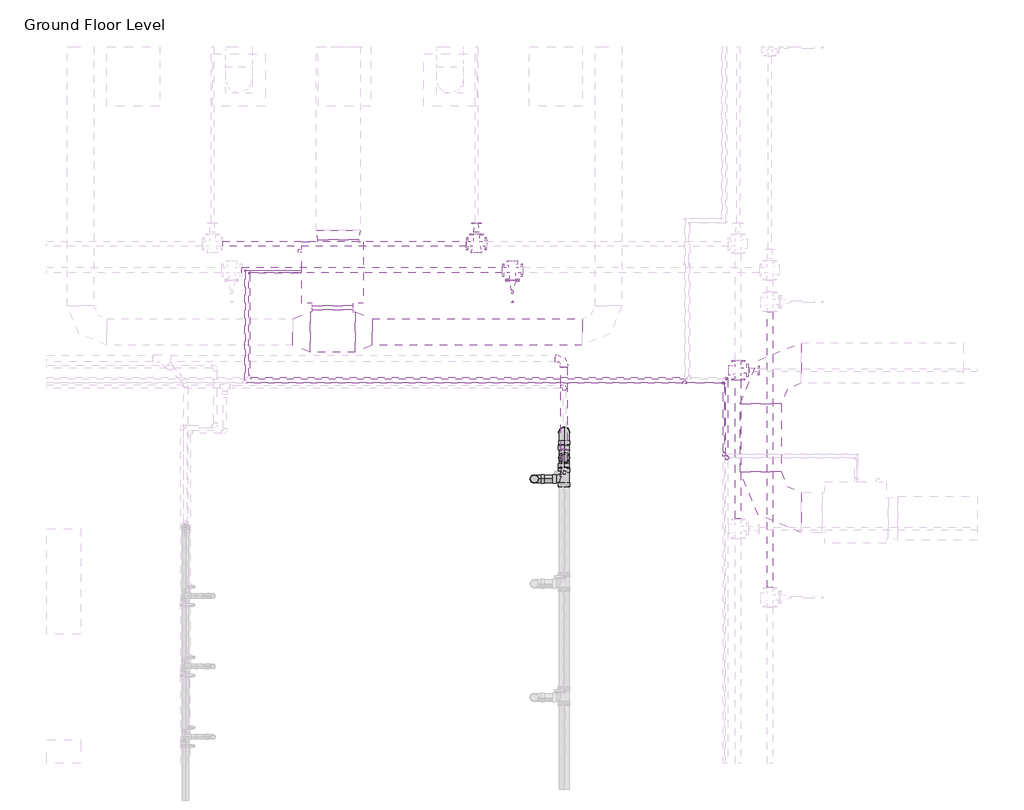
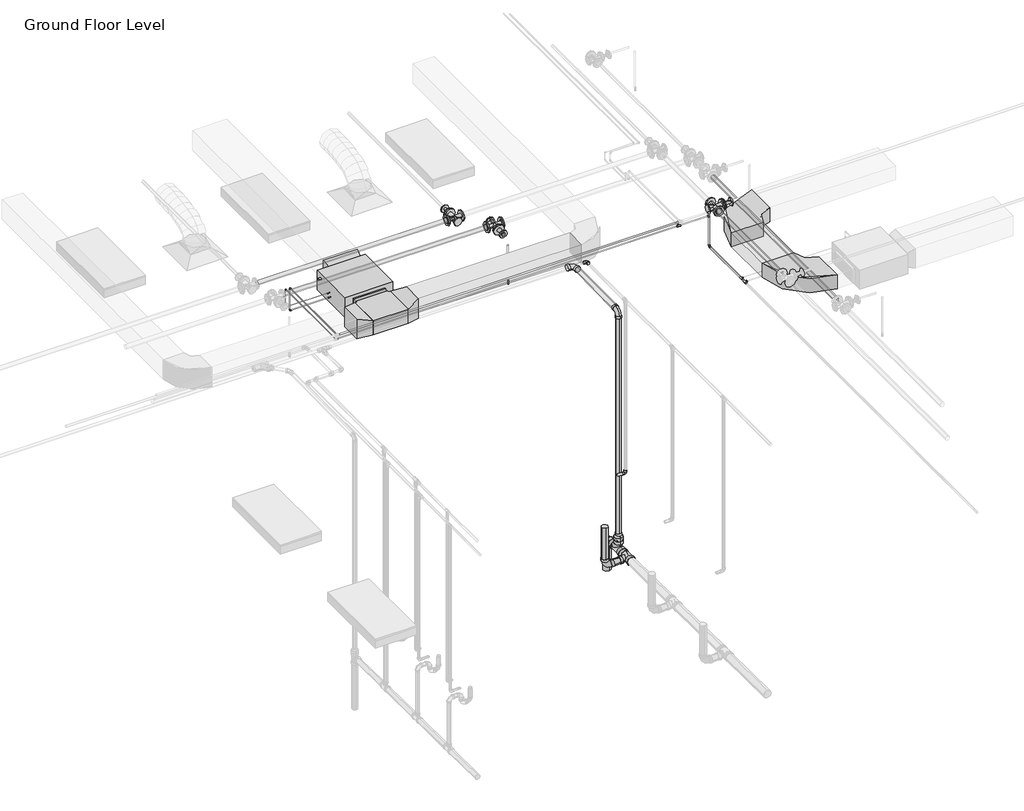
# One storey, part 66 of 74: 29 pipe fittings, 27 pipe segments, 8 duct fittings, 3 duct segments, 1 fire suppression terminal, 1 proxy.
"""IFC4 building model written with IfcOpenShell, lengths in millimetres."""

from ifc_helpers import new_model, si_unit, point, frame, frame_2d, origin, place, context, project, spatial, polyline, circle_curve, trimmed, segment, composite_curve, outline, extrude, transform, mapped, element, save
from components import fcu_daikin_iu_bad131e0, m_rectangular_elbow_radius_1_w_54c96895, m_rectangular_tee_standard_fa4de0e8, m_rectangular_transition_angle_45_degree_5a11b24e, m_rectangular_transition_angle_45_degree_27e6000f, m_rectangular_transition_angle_45_degree_1c32c0a1, m_rectangular_transition_angle_45_degree_6e5ad010, m_sprinkler_pendent_15_mm_pendent_06fcbd8e, m_bend_pvc_sch_40_dwv_standard_a4b99d37, m_bend_pvc_sch_40_dwv_standard_b7b4a97e, m_bend_pvc_sch_40_dwv_standard_c8221c0d, m_bend_pvc_sch_40_dwv_standard_69456cca, m_elbow_generic_standard_a088f956, m_elbow_generic_standard_2a704253, m_elbow_generic_standard_6b1a80c6, m_elbow_generic_standard_5542be81, m_elbow_generic_standard_73005802, m_elbow_generic_standard_bb5ffebe, m_reducer_flanged_cs_class_150_standard_a7631c35, m_reducer_flanged_cs_class_150_standard_55262df0, m_reducer_pvc_sch_40_dwv_standard_9996614f, m_tee_generic_standard_cdc1cff5, m_tee_generic_standard_bbfc025c, m_tee_reducing_sanitary_pvc_sch_40_dwv_standard_b49161a9, m_tee_reducing_sanitary_pvc_sch_40_dwv_standard_c42f3c59, m_tee_round_base_flanged_cs_class_150_standard_dd767e04, m_transition_generic_standard_e9aec4dd, m_transition_generic_standard_c2658a33, standard_517a5a8d

model = new_model("IFC4")

# Units and contexts
model_context = context("Model", 3, world=origin())
ifc_project = project(units=[si_unit("LENGTHUNIT", "METRE", prefix="MILLI")], contexts=[model_context])

# Site, building, storey
site = spatial("IfcSite", under=ifc_project)
building = spatial("IfcBuilding", under=site)
storey = spatial("IfcBuildingStorey", under=building, Name="Ground Floor Level", Elevation=900.0)

# Proxy
placement = place(None, origin())
fcu_daikin_iu_shape = fcu_daikin_iu_bad131e0(model_context)
element("IfcBuildingElementProxy", 1, Name="FCU-DAIKIN IU : 4.5kW, 230V/50Hz/1Ph", ObjectType="FCU-DAIKIN IU : 4.5kW, 230V/50Hz/1Ph", at=placement, inside=storey, context=model_context, shape_type="MappedRepresentation", body=[
    mapped(fcu_daikin_iu_shape, transform((1027.7672395, 14745.2153534, 3934.0872564), x_axis=(-1.0, 0.0, 0.0), y_axis=(0.0, -1.0, 0.0), z_axis=(0.0, 0.0, 1.0))),
])

# Duct fittings
m_rectangular_elbow_radius_1_w_shape = m_rectangular_elbow_radius_1_w_54c96895(model_context)
element("IfcDuctFitting", 2, ObjectType="M_Rectangular Elbow - Radius : 1 W", at=placement, inside=storey, context=model_context, shape_type="MappedRepresentation", body=[
    mapped(m_rectangular_elbow_radius_1_w_shape, transform((5893.4139492, 12019.6779527, 4075.2932729), x_axis=(0.0, -1.0, 0.0), y_axis=(1.0, 0.0, 0.0), z_axis=(0.0, 0.0, 1.0))),
])
element("IfcDuctFitting", 3, ObjectType="M_Rectangular Elbow - Radius : 1 W", at=placement, inside=storey, context=model_context, shape_type="MappedRepresentation", body=[
    mapped(m_rectangular_elbow_radius_1_w_shape, transform((5893.4139492, 13719.6783949, 4075.2932729), x_axis=(-1.0, 0.0, 0.0), y_axis=(0.0, -1.0, 0.0), z_axis=(0.0, 0.0, 1.0))),
])
m_rectangular_tee_standard_shape = m_rectangular_tee_standard_fa4de0e8(model_context)
element("IfcDuctFitting", 4, ObjectType="M_Rectangular Tee : Standard", at=placement, inside=storey, context=model_context, shape_type="MappedRepresentation", body=[
    mapped(m_rectangular_tee_standard_shape, transform((1027.7672395, 14069.8153534, 4075.2872564), x_axis=(-1.0, 0.0, 0.0), y_axis=(0.0, -1.0, 0.0), z_axis=(0.0, 0.0, 1.0))),
])
m_rectangular_transition_angle_45_degree_shape = m_rectangular_transition_angle_45_degree_5a11b24e(model_context)
element("IfcDuctFitting", 5, ObjectType="M_Rectangular Transition - Angle : 45 Degree", at=placement, inside=storey, context=model_context, shape_type="MappedRepresentation", body=[
    mapped(m_rectangular_transition_angle_45_degree_shape, transform((1091.2672395, 15120.6153534, 4099.9997564), x_axis=(0.0, 1.0, 0.0), y_axis=(-1.0, 0.0, 0.0), z_axis=(0.0, 0.0, 1.0))),
])
m_rectangular_transition_angle_45_degree_2_shape = m_rectangular_transition_angle_45_degree_27e6000f(model_context)
element("IfcDuctFitting", 6, ObjectType="M_Rectangular Transition - Angle : 45 Degree", at=placement, inside=storey, context=model_context, shape_type="MappedRepresentation", body=[
    mapped(m_rectangular_transition_angle_45_degree_2_shape, transform((1027.7672395, 14369.8153534, 4075.2872564), x_axis=(0.0, -1.0, 0.0), y_axis=(1.0, 0.0, 0.0), z_axis=(0.0, 0.0, 1.0))),
])
m_rectangular_transition_angle_45_degree_3_shape = m_rectangular_transition_angle_45_degree_1c32c0a1(model_context)
element("IfcDuctFitting", 7, ObjectType="M_Rectangular Transition - Angle : 45 Degree", at=placement, inside=storey, context=model_context, shape_type="MappedRepresentation", body=[
    mapped(m_rectangular_transition_angle_45_degree_3_shape, transform((1027.7672395, 14326.1149854, 4075.2872564), x_axis=(0.0, -1.0, 0.0), y_axis=(1.0, 0.0, 0.0), z_axis=(0.0, 0.0, 1.0))),
])
m_rectangular_transition_angle_45_degree_4_shape = m_rectangular_transition_angle_45_degree_6e5ad010(model_context)
element("IfcDuctFitting", 8, ObjectType="M_Rectangular Transition - Angle : 45 Degree", at=placement, inside=storey, context=model_context, shape_type="MappedRepresentation", body=[
    mapped(m_rectangular_transition_angle_45_degree_4_shape, transform((771.8297395, 14069.8153534, 4075.2872564), x_axis=(-1.0, 0.0, 0.0), y_axis=(0.0, -1.0, 0.0), z_axis=(0.0, 0.0, 1.0))),
])
element("IfcDuctFitting", 9, ObjectType="M_Rectangular Transition - Angle : 45 Degree", at=placement, inside=storey, context=model_context, shape_type="MappedRepresentation", body=[
    mapped(m_rectangular_transition_angle_45_degree_4_shape, transform((1283.7047395, 14069.8153534, 4075.2872564), x_axis=(1.0, 0.0, 0.0), y_axis=(0.0, 1.0, 0.0), z_axis=(0.0, 0.0, 1.0))),
])

# Duct segments
element("IfcDuctSegment", 10, ObjectType="Radius Elbows / Taps", at=placement, inside=storey, context=model_context, shape_type="SweptSolid", body=[
    extrude(outline(polyline([(1479.1051497, 13919.8153534), (1479.1051497, 14219.8153534), (3862.7672395, 14219.8153534), (3862.7672395, 13919.8153534), (1479.1051497, 13919.8153534)])), frame((0.0, 0.0, 3925.2872564), z_axis=(0.0, 0.0, 1.0), x_axis=(1.0, 0.0, 0.0)), (0.0, 0.0, 1.0), 300.0),
])
element("IfcDuctSegment", 11, ObjectType="Radius Elbows / Taps", at=placement, inside=storey, context=model_context, shape_type="SweptSolid", body=[
    extrude(outline(polyline([(796.7672395, 14369.4532214), (1258.7672395, 14369.4532214), (1258.7672395, 14326.1149854), (796.7672395, 14326.1149854), (796.7672395, 14369.4532214)])), frame((0.0, 0.0, 3968.2872564), z_axis=(0.0, 0.0, 1.0), x_axis=(1.0, 0.0, 0.0)), (0.0, 0.0, 1.0), 214.0),
])
element("IfcDuctSegment", 12, ObjectType="Radius Elbows / Taps", at=placement, inside=storey, context=model_context, shape_type="SweptSolid", body=[
    extrude(outline(polyline([(6124.3514492, 12481.5529527), (5662.4764492, 12481.5529527), (5662.4764492, 13257.8033949), (6124.3514492, 13257.8033949), (6124.3514492, 12481.5529527)])), frame((0.0, 0.0, 3968.1432729), z_axis=(0.0, 0.0, 1.0), x_axis=(1.0, 0.0, 0.0)), (0.0, 0.0, 1.0), 214.3),
])

# Fire suppression terminal
m_sprinkler_pendent_15_mm_pendent_shape = m_sprinkler_pendent_15_mm_pendent_06fcbd8e(model_context)
element("IfcFireSuppressionTerminal", 13, ObjectType="M_Sprinkler - Pendent : 15 mm Pendent", at=placement, inside=storey, context=model_context, shape_type="MappedRepresentation", body=[
    mapped(m_sprinkler_pendent_15_mm_pendent_shape, transform((3071.8868905, 14412.7243649, 3650.0), x_axis=(1.0, 0.0, 0.0), y_axis=(0.0, 1.0, 0.0), z_axis=(0.0, 0.0, 1.0))),
])

# Pipe fittings
m_bend_pvc_sch_40_dwv_standard_shape = m_bend_pvc_sch_40_dwv_standard_a4b99d37(model_context)
element("IfcPipeFitting", 14, ObjectType="M_Bend - PVC - Sch 40 - DWV : Standard", at=placement, inside=storey, context=model_context, shape_type="MappedRepresentation", body=[
    mapped(m_bend_pvc_sch_40_dwv_standard_shape, transform((3319.2245422, 12401.0385609, 390.1593073), x_axis=(0.0, 0.0, -1.0), y_axis=(1.0, 0.0, 0.0), z_axis=(0.0, -1.0, 0.0))),
])
m_bend_pvc_sch_40_dwv_standard_2_shape = m_bend_pvc_sch_40_dwv_standard_b7b4a97e(model_context)
element("IfcPipeFitting", 15, ObjectType="M_Bend - PVC - Sch 40 - DWV : Standard", at=placement, inside=storey, context=model_context, shape_type="MappedRepresentation", body=[
    mapped(m_bend_pvc_sch_40_dwv_standard_2_shape, transform((3657.4922763, 12931.9692954, 384.8), x_axis=(0.0, 0.9999500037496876, -0.00999950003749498), y_axis=(0.0, -0.00999950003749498, -0.9999500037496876), z_axis=(-1.0, 0.0, 0.0))),
])
m_bend_pvc_sch_40_dwv_standard_3_shape = m_bend_pvc_sch_40_dwv_standard_c8221c0d(model_context)
element("IfcPipeFitting", 16, ObjectType="M_Bend - PVC - Sch 40 - DWV : Standard", at=placement, inside=storey, context=model_context, shape_type="MappedRepresentation", body=[
    mapped(m_bend_pvc_sch_40_dwv_standard_3_shape, transform((3657.4860907, 12640.4076203, 4054.1870995), x_axis=(0.0, 0.0, 1.0), y_axis=(0.0, 1.0, 0.0), z_axis=(-1.0, 0.0, 0.0))),
])
m_bend_pvc_sch_40_dwv_standard_4_shape = m_bend_pvc_sch_40_dwv_standard_69456cca(model_context)
element("IfcPipeFitting", 17, ObjectType="M_Bend - PVC - Sch 40 - DWV : Standard", at=placement, inside=storey, context=model_context, shape_type="MappedRepresentation", body=[
    mapped(m_bend_pvc_sch_40_dwv_standard_4_shape, transform((3657.4860907, 13768.7316659, 4065.526469), x_axis=(0.0, 0.9999495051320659, 0.010049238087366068), y_axis=(-0.9999499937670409, -0.00010049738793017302, 0.009999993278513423), z_axis=(0.01000049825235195, -0.010048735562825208, 0.9998995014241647))),
])
m_elbow_generic_standard_shape = m_elbow_generic_standard_a088f956(model_context)
element("IfcPipeFitting", 18, ObjectType="M_Elbow - Generic : Standard", at=placement, inside=storey, context=model_context, shape_type="MappedRepresentation", body=[
    mapped(m_elbow_generic_standard_shape, transform((79.6672395, 14745.2153534, 4380.0), x_axis=(0.0, 0.0, 1.0), y_axis=(0.0, -1.0, 0.0), z_axis=(1.0, 0.0, 0.0))),
])
m_elbow_generic_standard_2_shape = m_elbow_generic_standard_2a704253(model_context)
element("IfcPipeFitting", 19, ObjectType="M_Elbow - Generic : Standard", at=placement, inside=storey, context=model_context, shape_type="MappedRepresentation", body=[
    mapped(m_elbow_generic_standard_2_shape, transform((29.9807053, 14770.2153534, 4365.0), x_axis=(0.0, 0.0, 1.0), y_axis=(0.0, -1.0, 0.0), z_axis=(1.0, 0.0, 0.0))),
])
m_elbow_generic_standard_3_shape = m_elbow_generic_standard_6b1a80c6(model_context)
element("IfcPipeFitting", 20, ObjectType="M_Elbow - Generic : Standard", at=placement, inside=storey, context=model_context, shape_type="MappedRepresentation", body=[
    mapped(m_elbow_generic_standard_3_shape, transform((79.6640192, 14745.2153534, 4034.0996164), x_axis=(0.0, 0.0, -1.0), y_axis=(1.0, 0.0, 0.0), z_axis=(0.0, -1.0, 0.0))),
])
m_elbow_generic_standard_4_shape = m_elbow_generic_standard_5542be81(model_context)
element("IfcPipeFitting", 21, ObjectType="M_Elbow - Generic : Standard", at=placement, inside=storey, context=model_context, shape_type="MappedRepresentation", body=[
    mapped(m_elbow_generic_standard_4_shape, transform((29.9777475, 14770.2153534, 4084.8996164), x_axis=(0.0, 0.0, -1.0), y_axis=(1.0, 0.0, 0.0), z_axis=(0.0, -1.0, 0.0))),
])
m_elbow_generic_standard_5_shape = m_elbow_generic_standard_73005802(model_context)
element("IfcPipeFitting", 22, ObjectType="M_Elbow - Generic : Standard", at=placement, inside=storey, context=model_context, shape_type="MappedRepresentation", body=[
    mapped(m_elbow_generic_standard_5_shape, transform((5505.0672395, 13545.2153534, 3851.8370709), x_axis=(0.0, 1.0, 0.0), y_axis=(0.0, 0.0, 1.0), z_axis=(1.0, 0.0, 0.0))),
])
element("IfcPipeFitting", 23, ObjectType="M_Elbow - Generic : Standard", at=placement, inside=storey, context=model_context, shape_type="MappedRepresentation", body=[
    mapped(m_elbow_generic_standard_5_shape, transform((5505.0672395, 13545.2153534, 4380.0), x_axis=(0.0, 0.0, 1.0), y_axis=(-1.0, 0.0, 0.0), z_axis=(0.0, -1.0, 0.0))),
])
m_elbow_generic_standard_6_shape = m_elbow_generic_standard_bb5ffebe(model_context)
element("IfcPipeFitting", 24, ObjectType="M_Elbow - Generic : Standard", at=placement, inside=storey, context=model_context, shape_type="MappedRepresentation", body=[
    mapped(m_elbow_generic_standard_6_shape, transform((5472.2057053, 13494.0185138, 3894.9), x_axis=(0.0, 1.0, 0.0), y_axis=(0.0, 0.0, 1.0), z_axis=(1.0, 0.0, 0.0))),
])
element("IfcPipeFitting", 25, ObjectType="M_Elbow - Generic : Standard", at=placement, inside=storey, context=model_context, shape_type="MappedRepresentation", body=[
    mapped(m_elbow_generic_standard_6_shape, transform((5472.2057053, 13494.0185138, 4365.0), x_axis=(0.0, 0.0, 1.0), y_axis=(-1.0, 0.0, 0.0), z_axis=(0.0, -1.0, 0.0))),
])
m_reducer_flanged_cs_class_150_standard_shape = m_reducer_flanged_cs_class_150_standard_a7631c35(model_context)
element("IfcPipeFitting", 26, ObjectType="M_Reducer - Flanged - CS - Class 150 : Standard", at=placement, inside=storey, context=model_context, shape_type="MappedRepresentation", body=[
    mapped(m_reducer_flanged_cs_class_150_standard_shape, transform((2662.7672395, 15187.2009828, 4360.0), x_axis=(0.0, 1.0, 0.0), y_axis=(-1.0, 0.0, 0.0), z_axis=(0.0, 0.0, 1.0))),
])
element("IfcPipeFitting", 27, ObjectType="M_Reducer - Flanged - CS - Class 150 : Standard", at=placement, inside=storey, context=model_context, shape_type="MappedRepresentation", body=[
    mapped(m_reducer_flanged_cs_class_150_standard_shape, transform((5749.869498, 13635.2153534, 4360.0), x_axis=(1.0, 0.0, 0.0), y_axis=(0.0, 0.0, 1.0), z_axis=(0.0, -1.0, 0.0))),
])
m_reducer_flanged_cs_class_150_standard_2_shape = m_reducer_flanged_cs_class_150_standard_55262df0(model_context)
element("IfcPipeFitting", 28, ObjectType="M_Reducer - Flanged - CS - Class 150 : Standard", at=placement, inside=storey, context=model_context, shape_type="MappedRepresentation", body=[
    mapped(m_reducer_flanged_cs_class_150_standard_2_shape, transform((3071.8868905, 14659.4681847, 4290.0), x_axis=(0.0, -1.0, 0.0), y_axis=(1.0, 0.0, 0.0), z_axis=(0.0, 0.0, 1.0))),
])
m_reducer_pvc_sch_40_dwv_standard_shape = m_reducer_pvc_sch_40_dwv_standard_9996614f(model_context)
element("IfcPipeFitting", 29, ObjectType="M_Reducer - PVC - Sch 40 - DWV : Standard", at=placement, inside=storey, context=model_context, shape_type="MappedRepresentation", body=[
    mapped(m_reducer_pvc_sch_40_dwv_standard_shape, transform((3657.4891752, 12640.1615283, 533.8243961), x_axis=(0.0, 7.101608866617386e-05, 0.9999999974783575), y_axis=(0.0, 0.9999999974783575, -7.101608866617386e-05), z_axis=(-1.0, 0.0, 0.0))),
])
m_tee_generic_standard_shape = m_tee_generic_standard_cdc1cff5(model_context)
element("IfcPipeFitting", 30, ObjectType="M_Tee - Generic : Standard", at=placement, inside=storey, context=model_context, shape_type="MappedRepresentation", body=[
    mapped(m_tee_generic_standard_shape, transform((5472.2057053, 12681.5253374, 3894.9), x_axis=(0.0, 1.0, 0.0), y_axis=(-1.0, 0.0, 0.0), z_axis=(0.0, 0.0, 1.0))),
])
element("IfcPipeFitting", 31, ObjectType="M_Tee - Generic : Standard", at=placement, inside=storey, context=model_context, shape_type="MappedRepresentation", body=[
    mapped(m_tee_generic_standard_shape, transform((5029.9807053, 13494.0185138, 4365.0), x_axis=(-1.0, 0.0, 0.0), y_axis=(0.0, -1.0, 0.0), z_axis=(0.0, 0.0, 1.0))),
])
m_tee_generic_standard_2_shape = m_tee_generic_standard_bbfc025c(model_context)
element("IfcPipeFitting", 32, ObjectType="M_Tee - Generic : Standard", at=placement, inside=storey, context=model_context, shape_type="MappedRepresentation", body=[
    mapped(m_tee_generic_standard_2_shape, transform((5505.0672395, 12641.4098545, 3851.8370709), x_axis=(0.0, 1.0, 0.0), y_axis=(-1.0, 0.0, 0.0), z_axis=(0.0, 0.0, 1.0))),
])
m_tee_reducing_sanitary_pvc_sch_40_dwv_standard_shape = m_tee_reducing_sanitary_pvc_sch_40_dwv_standard_b49161a9(model_context)
element("IfcPipeFitting", 33, ObjectType="M_Tee Reducing Sanitary - PVC - Sch 40 - DWV : Standard", at=placement, inside=storey, context=model_context, shape_type="MappedRepresentation", body=[
    mapped(m_tee_reducing_sanitary_pvc_sch_40_dwv_standard_shape, transform((3657.4922763, 12401.038061, 390.1093123), x_axis=(0.0, -0.9999500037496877, 0.009999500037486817), y_axis=(1.0000000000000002, 0.0, 0.0), z_axis=(0.0, 0.009999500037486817, 0.9999500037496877))),
])
m_tee_reducing_sanitary_pvc_sch_40_dwv_standard_2_shape = m_tee_reducing_sanitary_pvc_sch_40_dwv_standard_c42f3c59(model_context)
element("IfcPipeFitting", 34, ObjectType="M_Tee Reducing Sanitary - PVC - Sch 40 - DWV : Standard", at=placement, inside=storey, context=model_context, shape_type="MappedRepresentation", body=[
    mapped(m_tee_reducing_sanitary_pvc_sch_40_dwv_standard_2_shape, transform((3657.4922763, 12640.3832411, 387.7158605), x_axis=(0.0, -0.9999500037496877, 0.009999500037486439), y_axis=(0.0, -0.009999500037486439, -0.9999500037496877), z_axis=(1.0, 0.0, 0.0))),
])
m_tee_round_base_flanged_cs_class_150_standard_shape = m_tee_round_base_flanged_cs_class_150_standard_dd767e04(model_context)
element("IfcPipeFitting", 35, ObjectType="M_Tee Round Base - Flanged - CS - Class 150 : Standard", at=placement, inside=storey, context=model_context, shape_type="MappedRepresentation", body=[
    mapped(m_tee_round_base_flanged_cs_class_150_standard_shape, transform((3071.8868905, 14773.4681847, 4290.0), x_axis=(-1.0, 0.0, 0.0), y_axis=(0.0, 1.0, 0.0), z_axis=(0.0, 0.0, -1.0))),
])
element("IfcPipeFitting", 36, ObjectType="M_Tee Round Base - Flanged - CS - Class 150 : Standard", at=placement, inside=storey, context=model_context, shape_type="MappedRepresentation", body=[
    mapped(m_tee_round_base_flanged_cs_class_150_standard_shape, transform((2662.7672395, 15073.2009828, 4360.0), x_axis=(-1.0, 0.0, 0.0), y_axis=(0.0, -1.0, 0.0), z_axis=(0.0, 0.0, 1.0))),
])
element("IfcPipeFitting", 37, ObjectType="M_Tee Round Base - Flanged - CS - Class 150 : Standard", at=placement, inside=storey, context=model_context, shape_type="MappedRepresentation", body=[
    mapped(m_tee_round_base_flanged_cs_class_150_standard_shape, transform((5635.869498, 13635.2153534, 4360.0), x_axis=(0.0, 1.0, 0.0), y_axis=(-1.0, 0.0, 0.0), z_axis=(0.0, 0.0, 1.0))),
])
m_transition_generic_standard_shape = m_transition_generic_standard_e9aec4dd(model_context)
element("IfcPipeFitting", 38, ObjectType="M_Transition - Generic : Standard", at=placement, inside=storey, context=model_context, shape_type="MappedRepresentation", body=[
    mapped(m_transition_generic_standard_shape, transform((5530.4672395, 12641.4098545, 3851.8370709), x_axis=(1.0, 0.0, 0.0), y_axis=(0.0, 1.0, 0.0), z_axis=(0.0, 0.0, 1.0))),
])
m_transition_generic_standard_2_shape = m_transition_generic_standard_c2658a33(model_context)
element("IfcPipeFitting", 39, ObjectType="M_Transition - Generic : Standard", at=placement, inside=storey, context=model_context, shape_type="MappedRepresentation", body=[
    mapped(m_transition_generic_standard_2_shape, transform((5494.4307053, 12681.5253374, 3894.9), x_axis=(1.0, 0.0, 0.0), y_axis=(0.0, 1.0, 0.0), z_axis=(0.0, 0.0, 1.0))),
])
element("IfcPipeFitting", 40, ObjectType="M_Transition - Generic : Standard", at=placement, inside=storey, context=model_context, shape_type="MappedRepresentation", body=[
    mapped(m_transition_generic_standard_2_shape, transform((5029.9807053, 13516.2435138, 4365.0), x_axis=(0.0, 1.0, 0.0), y_axis=(-1.0, 0.0, 0.0), z_axis=(0.0, 0.0, 1.0))),
])
standard_shape = standard_517a5a8d(model_context)
element("IfcPipeFitting", 41, ObjectType="M_Elbow - CPVC - Sch 40 : Standard", at=placement, inside=storey, context=model_context, shape_type="MappedRepresentation", body=[
    mapped(standard_shape, transform((3662.4674395, 13449.9865561, 4315.0), x_axis=(0.0, 1.0, 0.0), y_axis=(-1.0, 0.0, 0.0), z_axis=(0.0, 0.0, 1.0))),
])
element("IfcPipeFitting", 42, ObjectType="M_Elbow - CPVC - Sch 40 : Standard", at=placement, inside=storey, context=model_context, shape_type="MappedRepresentation", body=[
    mapped(standard_shape, transform((3662.4674395, 12474.4768272, 1655.0), x_axis=(0.0, 0.0, -1.0), y_axis=(-1.0, 0.0, 0.0), z_axis=(0.0, 1.0, 0.0))),
])

# Pipe segments
element("IfcPipeSegment", 43, ObjectType="Copper", at=placement, inside=storey, context=model_context, shape_type="SweptSolid", body=[
    extrude(outline(composite_curve([segment(trimmed(circle_curve(frame_2d((0.0, -6.5)), 6.5), [point((-6.5, -6.5))], [point((0.0, 0.0))], False, "CARTESIAN"), True, "CONTINUOUS"), segment(trimmed(circle_curve(frame_2d((0.0, -6.5)), 6.5), [point((0.0, 0.0))], [point((6.5, -6.5))], False, "CARTESIAN"), True, "CONTINUOUS"), segment(trimmed(circle_curve(frame_2d((0.0, -6.5)), 6.5), [point((6.5, -6.5))], [point((0.0, -13.0))], False, "CARTESIAN"), True, "CONTINUOUS"), segment(trimmed(circle_curve(frame_2d((0.0, -6.5)), 6.5), [point((0.0, -13.0))], [point((-6.5, -6.5))], False, "CARTESIAN"), True, "CONTINUOUS")], self_intersect=False)), frame((639.667096, 14745.2153534, 4027.5872564), z_axis=(-0.9999999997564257, 0.0, 2.207144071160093e-05), x_axis=(0.0, 1.0, 0.0)), (0.0, 0.0, 1.0), 545.7160357),
])
element("IfcPipeSegment", 44, ObjectType="Copper", at=placement, inside=storey, context=model_context, shape_type="SweptSolid", body=[
    extrude(outline(composite_curve([segment(trimmed(circle_curve(frame_2d((0.0, -3.35)), 3.35), [point((-3.35, -3.35))], [point((0.0, 0.0))], False, "CARTESIAN"), True, "CONTINUOUS"), segment(trimmed(circle_curve(frame_2d((0.0, -3.35)), 3.35), [point((0.0, 0.0))], [point((3.35, -3.35))], False, "CARTESIAN"), True, "CONTINUOUS"), segment(trimmed(circle_curve(frame_2d((0.0, -3.35)), 3.35), [point((3.35, -3.35))], [point((0.0, -6.7))], False, "CARTESIAN"), True, "CONTINUOUS"), segment(trimmed(circle_curve(frame_2d((0.0, -3.35)), 3.35), [point((0.0, -6.7))], [point((-3.35, -3.35))], False, "CARTESIAN"), True, "CONTINUOUS")], self_intersect=False)), frame((639.6671716, 14770.2153534, 4081.5372564), z_axis=(-0.9999999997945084, 0.0, 2.027272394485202e-05), x_axis=(0.0, 1.0, 0.0)), (0.0, 0.0, 1.0), 598.5522179),
])
element("IfcPipeSegment", 45, ObjectType="Copper", at=placement, inside=storey, context=model_context, shape_type="SweptSolid", body=[
    extrude(outline(composite_curve([segment(trimmed(circle_curve(frame_2d((4380.0, 79.6672395)), 6.5), [point((4380.0, 73.1672395))], [point((4373.5, 79.6672395))], False, "CARTESIAN"), True, "CONTINUOUS"), segment(trimmed(circle_curve(frame_2d((4380.0, 79.6672395)), 6.5), [point((4373.5, 79.6672395))], [point((4380.0, 86.1672395))], False, "CARTESIAN"), True, "CONTINUOUS"), segment(trimmed(circle_curve(frame_2d((4380.0, 79.6672395)), 6.5), [point((4380.0, 86.1672395))], [point((4386.5, 79.6672395))], False, "CARTESIAN"), True, "CONTINUOUS"), segment(trimmed(circle_curve(frame_2d((4380.0, 79.6672395)), 6.5), [point((4386.5, 79.6672395))], [point((4380.0, 73.1672395))], False, "CARTESIAN"), True, "CONTINUOUS")], self_intersect=False)), frame((0.0, 13576.9653534, 0.0), z_axis=(0.0, 1.0, 0.0), x_axis=(0.0, 0.0, 1.0)), (0.0, 0.0, 1.0), 1153.9625),
])
element("IfcPipeSegment", 46, ObjectType="Copper", at=placement, inside=storey, context=model_context, shape_type="SweptSolid", body=[
    extrude(outline(composite_curve([segment(trimmed(circle_curve(frame_2d((0.0, -6.5)), 6.5), [point((-6.5, -6.5))], [point((0.0, 0.0))], False, "CARTESIAN"), True, "CONTINUOUS"), segment(trimmed(circle_curve(frame_2d((0.0, -6.5)), 6.5), [point((0.0, 0.0))], [point((6.5, -6.5))], False, "CARTESIAN"), True, "CONTINUOUS"), segment(trimmed(circle_curve(frame_2d((0.0, -6.5)), 6.5), [point((6.5, -6.5))], [point((0.0, -13.0))], False, "CARTESIAN"), True, "CONTINUOUS"), segment(trimmed(circle_curve(frame_2d((0.0, -6.5)), 6.5), [point((0.0, -13.0))], [point((-6.5, -6.5))], False, "CARTESIAN"), True, "CONTINUOUS")], self_intersect=False)), frame((79.6640192, 14738.7153534, 4048.3868011), z_axis=(1.014803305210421e-05, 0.0, 0.9999999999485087), x_axis=(-0.9999999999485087, 0.0, 1.014803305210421e-05)), (0.0, 0.0, 1.0), 317.3256989),
])
element("IfcPipeSegment", 47, ObjectType="Copper", at=placement, inside=storey, context=model_context, shape_type="SweptSolid", body=[
    extrude(outline(composite_curve([segment(trimmed(circle_curve(frame_2d((4365.0, 29.9807053)), 3.35), [point((4365.0, 26.6307053))], [point((4361.65, 29.9807053))], False, "CARTESIAN"), True, "CONTINUOUS"), segment(trimmed(circle_curve(frame_2d((4365.0, 29.9807053)), 3.35), [point((4361.65, 29.9807053))], [point((4365.0, 33.3307053))], False, "CARTESIAN"), True, "CONTINUOUS"), segment(trimmed(circle_curve(frame_2d((4365.0, 29.9807053)), 3.35), [point((4365.0, 33.3307053))], [point((4368.35, 29.9807053))], False, "CARTESIAN"), True, "CONTINUOUS"), segment(trimmed(circle_curve(frame_2d((4365.0, 29.9807053)), 3.35), [point((4368.35, 29.9807053))], [point((4365.0, 26.6307053))], False, "CARTESIAN"), True, "CONTINUOUS")], self_intersect=False)), frame((0.0, 13521.0060138, 0.0), z_axis=(0.0, 1.0, 0.0), x_axis=(0.0, 0.0, 1.0)), (0.0, 0.0, 1.0), 1238.0718396),
])
element("IfcPipeSegment", 48, ObjectType="Copper", at=placement, inside=storey, context=model_context, shape_type="SweptSolid", body=[
    extrude(outline(composite_curve([segment(trimmed(circle_curve(frame_2d((0.0, -3.35)), 3.35), [point((-3.35, -3.35))], [point((0.0, 0.0))], False, "CARTESIAN"), True, "CONTINUOUS"), segment(trimmed(circle_curve(frame_2d((0.0, -3.35)), 3.35), [point((0.0, 0.0))], [point((3.35, -3.35))], False, "CARTESIAN"), True, "CONTINUOUS"), segment(trimmed(circle_curve(frame_2d((0.0, -3.35)), 3.35), [point((3.35, -3.35))], [point((0.0, -6.7))], False, "CARTESIAN"), True, "CONTINUOUS"), segment(trimmed(circle_curve(frame_2d((0.0, -3.35)), 3.35), [point((0.0, -6.7))], [point((-3.35, -3.35))], False, "CARTESIAN"), True, "CONTINUOUS")], self_intersect=False)), frame((29.9777475, 14766.8653534, 4096.0368906), z_axis=(1.1472088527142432e-05, 0.0, 0.9999999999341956), x_axis=(-0.9999999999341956, 0.0, 1.1472088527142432e-05)), (0.0, 0.0, 1.0), 257.8256094),
])
element("IfcPipeSegment", 49, ObjectType="Copper", at=placement, inside=storey, context=model_context, shape_type="SweptSolid", body=[
    extrude(outline(composite_curve([segment(trimmed(circle_curve(frame_2d((13494.0185138, 4365.0)), 8.1), [point((13485.9185138, 4365.0))], [point((13494.0185138, 4373.1))], False, "CARTESIAN"), True, "CONTINUOUS"), segment(trimmed(circle_curve(frame_2d((13494.0185138, 4365.0)), 8.1), [point((13494.0185138, 4373.1))], [point((13502.1185138, 4365.0))], False, "CARTESIAN"), True, "CONTINUOUS"), segment(trimmed(circle_curve(frame_2d((13494.0185138, 4365.0)), 8.1), [point((13502.1185138, 4365.0))], [point((13494.0185138, 4356.9))], False, "CARTESIAN"), True, "CONTINUOUS"), segment(trimmed(circle_curve(frame_2d((13494.0185138, 4365.0)), 8.1), [point((13494.0185138, 4356.9))], [point((13485.9185138, 4365.0))], False, "CARTESIAN"), True, "CONTINUOUS")], self_intersect=False)), frame((5052.2057053, 0.0, 0.0), z_axis=(1.0, 0.0, 0.0), x_axis=(0.0, 1.0, 0.0)), (0.0, 0.0, 1.0), 404.125),
])
element("IfcPipeSegment", 50, ObjectType="Copper", at=placement, inside=storey, context=model_context, shape_type="SweptSolid", body=[
    extrude(outline(composite_curve([segment(trimmed(circle_curve(frame_2d((5505.0672395, 13545.2153534)), 11.5), [point((5493.5672395, 13545.2153534))], [point((5505.0672395, 13556.7153534))], False, "CARTESIAN"), True, "CONTINUOUS"), segment(trimmed(circle_curve(frame_2d((5505.0672395, 13545.2153534)), 11.5), [point((5505.0672395, 13556.7153534))], [point((5516.5672395, 13545.2153534))], False, "CARTESIAN"), True, "CONTINUOUS"), segment(trimmed(circle_curve(frame_2d((5505.0672395, 13545.2153534)), 11.5), [point((5516.5672395, 13545.2153534))], [point((5505.0672395, 13533.7153534))], False, "CARTESIAN"), True, "CONTINUOUS"), segment(trimmed(circle_curve(frame_2d((5505.0672395, 13545.2153534)), 11.5), [point((5505.0672395, 13533.7153534))], [point((5493.5672395, 13545.2153534))], False, "CARTESIAN"), True, "CONTINUOUS")], self_intersect=False)), frame((0.0, 0.0, 3870.8870709), z_axis=(0.0, 0.0, 1.0), x_axis=(1.0, 0.0, 0.0)), (0.0, 0.0, 1.0), 490.0629291),
])
element("IfcPipeSegment", 51, ObjectType="Copper", at=placement, inside=storey, context=model_context, shape_type="SweptSolid", body=[
    extrude(outline(composite_curve([segment(trimmed(circle_curve(frame_2d((5472.2057053, 13494.0185138)), 8.1), [point((5464.1057053, 13494.0185138))], [point((5472.2057053, 13502.1185138))], False, "CARTESIAN"), True, "CONTINUOUS"), segment(trimmed(circle_curve(frame_2d((5472.2057053, 13494.0185138)), 8.1), [point((5472.2057053, 13502.1185138))], [point((5480.3057053, 13494.0185138))], False, "CARTESIAN"), True, "CONTINUOUS"), segment(trimmed(circle_curve(frame_2d((5472.2057053, 13494.0185138)), 8.1), [point((5480.3057053, 13494.0185138))], [point((5472.2057053, 13485.9185138))], False, "CARTESIAN"), True, "CONTINUOUS"), segment(trimmed(circle_curve(frame_2d((5472.2057053, 13494.0185138)), 8.1), [point((5472.2057053, 13485.9185138))], [point((5464.1057053, 13494.0185138))], False, "CARTESIAN"), True, "CONTINUOUS")], self_intersect=False)), frame((0.0, 0.0, 3910.775), z_axis=(0.0, 0.0, 1.0), x_axis=(1.0, 0.0, 0.0)), (0.0, 0.0, 1.0), 438.35),
])
element("IfcPipeSegment", 52, ObjectType="Copper", at=placement, inside=storey, context=model_context, shape_type="SweptSolid", body=[
    extrude(outline(composite_curve([segment(trimmed(circle_curve(frame_2d((3851.8370709, 5505.0672395)), 11.5), [point((3851.8370709, 5493.5672395))], [point((3840.3370709, 5505.0672395))], False, "CARTESIAN"), True, "CONTINUOUS"), segment(trimmed(circle_curve(frame_2d((3851.8370709, 5505.0672395)), 11.5), [point((3840.3370709, 5505.0672395))], [point((3851.8370709, 5516.5672395))], False, "CARTESIAN"), True, "CONTINUOUS"), segment(trimmed(circle_curve(frame_2d((3851.8370709, 5505.0672395)), 11.5), [point((3851.8370709, 5516.5672395))], [point((3863.3370709, 5505.0672395))], False, "CARTESIAN"), True, "CONTINUOUS"), segment(trimmed(circle_curve(frame_2d((3851.8370709, 5505.0672395)), 11.5), [point((3863.3370709, 5505.0672395))], [point((3851.8370709, 5493.5672395))], False, "CARTESIAN"), True, "CONTINUOUS")], self_intersect=False)), frame((0.0, 12666.8098545, 0.0), z_axis=(0.0, 1.0, 0.0), x_axis=(0.0, 0.0, 1.0)), (0.0, 0.0, 1.0), 859.3554989),
])
element("IfcPipeSegment", 53, ObjectType="Copper", at=placement, inside=storey, context=model_context, shape_type="SweptSolid", body=[
    extrude(outline(composite_curve([segment(trimmed(circle_curve(frame_2d((3894.9, 5472.2057053)), 8.1), [point((3894.9, 5464.1057053))], [point((3886.8, 5472.2057053))], False, "CARTESIAN"), True, "CONTINUOUS"), segment(trimmed(circle_curve(frame_2d((3894.9, 5472.2057053)), 8.1), [point((3886.8, 5472.2057053))], [point((3894.9, 5480.3057053))], False, "CARTESIAN"), True, "CONTINUOUS"), segment(trimmed(circle_curve(frame_2d((3894.9, 5472.2057053)), 8.1), [point((3894.9, 5480.3057053))], [point((3903.0, 5472.2057053))], False, "CARTESIAN"), True, "CONTINUOUS"), segment(trimmed(circle_curve(frame_2d((3894.9, 5472.2057053)), 8.1), [point((3903.0, 5472.2057053))], [point((3894.9, 5464.1057053))], False, "CARTESIAN"), True, "CONTINUOUS")], self_intersect=False)), frame((0.0, 12703.7503374, 0.0), z_axis=(0.0, 1.0, 0.0), x_axis=(0.0, 0.0, 1.0)), (0.0, 0.0, 1.0), 774.3931764),
])
element("IfcPipeSegment", 54, ObjectType="Copper", at=placement, inside=storey, context=model_context, shape_type="SweptSolid", body=[
    extrude(outline(composite_curve([segment(trimmed(circle_curve(frame_2d((13494.0185138, 4365.0)), 8.1), [point((13485.9185138, 4365.0))], [point((13494.0185138, 4373.1))], False, "CARTESIAN"), True, "CONTINUOUS"), segment(trimmed(circle_curve(frame_2d((13494.0185138, 4365.0)), 8.1), [point((13494.0185138, 4373.1))], [point((13502.1185138, 4365.0))], False, "CARTESIAN"), True, "CONTINUOUS"), segment(trimmed(circle_curve(frame_2d((13494.0185138, 4365.0)), 8.1), [point((13502.1185138, 4365.0))], [point((13494.0185138, 4356.9))], False, "CARTESIAN"), True, "CONTINUOUS"), segment(trimmed(circle_curve(frame_2d((13494.0185138, 4365.0)), 8.1), [point((13494.0185138, 4356.9))], [point((13485.9185138, 4365.0))], False, "CARTESIAN"), True, "CONTINUOUS")], self_intersect=False)), frame((52.2057053, 0.0, 0.0), z_axis=(1.0, 0.0, 0.0), x_axis=(0.0, 1.0, 0.0)), (0.0, 0.0, 1.0), 4955.55),
])
element("IfcPipeSegment", 55, ObjectType="Copper", at=placement, inside=storey, context=model_context, shape_type="SweptSolid", body=[
    extrude(outline(composite_curve([segment(trimmed(circle_curve(frame_2d((13545.2153534, 4380.0)), 11.5), [point((13533.7153534, 4380.0))], [point((13545.2153534, 4391.5))], False, "CARTESIAN"), True, "CONTINUOUS"), segment(trimmed(circle_curve(frame_2d((13545.2153534, 4380.0)), 11.5), [point((13545.2153534, 4391.5))], [point((13556.7153534, 4380.0))], False, "CARTESIAN"), True, "CONTINUOUS"), segment(trimmed(circle_curve(frame_2d((13545.2153534, 4380.0)), 11.5), [point((13556.7153534, 4380.0))], [point((13545.2153534, 4368.5))], False, "CARTESIAN"), True, "CONTINUOUS"), segment(trimmed(circle_curve(frame_2d((13545.2153534, 4380.0)), 11.5), [point((13545.2153534, 4368.5))], [point((13533.7153534, 4380.0))], False, "CARTESIAN"), True, "CONTINUOUS")], self_intersect=False)), frame((105.0672395, 0.0, 0.0), z_axis=(1.0, 0.0, 0.0), x_axis=(0.0, 1.0, 0.0)), (0.0, 0.0, 1.0), 4949.2),
])
element("IfcPipeSegment", 56, ObjectType="PVC - DWV", at=placement, inside=storey, context=model_context, shape_type="SweptSolid", body=[
    extrude(outline(composite_curve([segment(trimmed(circle_curve(frame_2d((3657.4922763, 12931.9692954)), 57.15), [point((3714.6422763, 12931.9692954))], [point((3657.4922763, 12874.8192954))], False, "CARTESIAN"), True, "CONTINUOUS"), segment(trimmed(circle_curve(frame_2d((3657.4922763, 12931.9692954)), 57.15), [point((3657.4922763, 12874.8192954))], [point((3600.3422763, 12931.9692954))], False, "CARTESIAN"), True, "CONTINUOUS"), segment(trimmed(circle_curve(frame_2d((3657.4922763, 12931.9692954)), 57.15), [point((3600.3422763, 12931.9692954))], [point((3657.4922763, 12989.1192954))], False, "CARTESIAN"), True, "CONTINUOUS"), segment(trimmed(circle_curve(frame_2d((3657.4922763, 12931.9692954)), 57.15), [point((3657.4922763, 12989.1192954))], [point((3714.6422763, 12931.9692954))], False, "CARTESIAN"), True, "CONTINUOUS")], self_intersect=False)), frame((0.0, 0.0, -100.0), z_axis=(0.0, 0.0, 1.0), x_axis=(1.0, 0.0, 0.0)), (0.0, 0.0, 1.0), 341.925),
])
element("IfcPipeSegment", 57, ObjectType="PVC - DWV", at=placement, inside=storey, context=model_context, shape_type="SweptSolid", body=[
    extrude(outline(composite_curve([segment(trimmed(circle_curve(frame_2d((0.0, -44.45)), 44.45), [point((-44.45, -44.45))], [point((0.0, 0.0))], False, "CARTESIAN"), True, "CONTINUOUS"), segment(trimmed(circle_curve(frame_2d((0.0, -44.45)), 44.45), [point((0.0, 0.0))], [point((44.45, -44.45))], False, "CARTESIAN"), True, "CONTINUOUS"), segment(trimmed(circle_curve(frame_2d((0.0, -44.45)), 44.45), [point((44.45, -44.45))], [point((0.0, -88.9))], False, "CARTESIAN"), True, "CONTINUOUS"), segment(trimmed(circle_curve(frame_2d((0.0, -44.45)), 44.45), [point((0.0, -88.9))], [point((-44.45, -44.45))], False, "CARTESIAN"), True, "CONTINUOUS")], self_intersect=False)), frame((3319.2245422, 12356.5885609, 506.0594614), z_axis=(0.0, -1.0330815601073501e-06, 0.9999999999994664), x_axis=(-1.0, 0.0, 0.0)), (0.0, 0.0, 1.0), 483.9404927),
])
element("IfcPipeSegment", 58, ObjectType="PVC - DWV", at=placement, inside=storey, context=model_context, shape_type="SweptSolid", body=[
    extrude(outline(composite_curve([segment(trimmed(circle_curve(frame_2d((12401.038061, 390.1093123)), 44.45), [point((12356.588061, 390.1093123))], [point((12401.038061, 434.5593123))], False, "CARTESIAN"), True, "CONTINUOUS"), segment(trimmed(circle_curve(frame_2d((12401.038061, 390.1093123)), 44.45), [point((12401.038061, 434.5593123))], [point((12445.488061, 390.1093123))], False, "CARTESIAN"), True, "CONTINUOUS"), segment(trimmed(circle_curve(frame_2d((12401.038061, 390.1093123)), 44.45), [point((12445.488061, 390.1093123))], [point((12401.038061, 345.6593123))], False, "CARTESIAN"), True, "CONTINUOUS"), segment(trimmed(circle_curve(frame_2d((12401.038061, 390.1093123)), 44.45), [point((12401.038061, 345.6593123))], [point((12356.588061, 390.1093123))], False, "CARTESIAN"), True, "CONTINUOUS")], self_intersect=False)), frame((3435.1247422, 0.0, 0.0), z_axis=(1.0, 0.0, 0.0), x_axis=(0.0, 1.0, 0.0)), (0.0, 0.0, 1.0), 93.767334),
])
element("IfcPipeSegment", 59, ObjectType="PVC - DWV", at=placement, inside=storey, context=model_context, shape_type="SweptSolid", body=[
    extrude(outline(composite_curve([segment(trimmed(circle_curve(frame_2d((0.0, 36.5125)), 36.5125), [point((36.5125, 36.5125))], [point((0.0, 0.0))], False, "CARTESIAN"), True, "CONTINUOUS"), segment(trimmed(circle_curve(frame_2d((0.0, 36.5125)), 36.5125), [point((0.0, 0.0))], [point((-36.5125, 36.5125))], False, "CARTESIAN"), True, "CONTINUOUS"), segment(trimmed(circle_curve(frame_2d((0.0, 36.5125)), 36.5125), [point((-36.5125, 36.5125))], [point((0.0, 73.025))], False, "CARTESIAN"), True, "CONTINUOUS"), segment(trimmed(circle_curve(frame_2d((0.0, 36.5125)), 36.5125), [point((0.0, 73.025))], [point((36.5125, 36.5125))], False, "CARTESIAN"), True, "CONTINUOUS")], self_intersect=False)), frame((3657.4860907, 12739.0497603, 4091.6927716), z_axis=(0.0, 0.9999495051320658, 0.010049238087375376), x_axis=(1.0, 0.0, 0.0)), (0.0, 0.0, 1.0), 930.3528981),
])
element("IfcPipeSegment", 60, ObjectType="PVC - DWV", at=placement, inside=storey, context=model_context, shape_type="SweptSolid", body=[
    extrude(outline(composite_curve([segment(trimmed(circle_curve(frame_2d((0.0, 57.1499999)), 57.15), [point((-57.15, 57.1499999))], [point((0.0, 114.3))], False, "CARTESIAN"), True, "CONTINUOUS"), segment(trimmed(circle_curve(frame_2d((0.0, 57.1499999)), 57.15), [point((0.0, 114.3))], [point((57.15, 57.1499999))], False, "CARTESIAN"), True, "CONTINUOUS"), segment(trimmed(circle_curve(frame_2d((0.0, 57.1499999)), 57.15), [point((57.15, 57.1499999))], [point((0.0, 0.0))], False, "CARTESIAN"), True, "CONTINUOUS"), segment(trimmed(circle_curve(frame_2d((0.0, 57.1499999)), 57.15), [point((0.0, 0.0))], [point((-57.15, 57.1499999))], False, "CARTESIAN"), True, "CONTINUOUS")], self_intersect=False)), frame((3657.4891752, 12583.0107966, 528.5214125), z_axis=(0.0, 0.0001378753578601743, 0.9999999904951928), x_axis=(1.0, 0.0, 0.0)), (0.0, 0.0, 1.0), 5.3108632),
])
element("IfcPipeSegment", 61, ObjectType="PVC - DWV", at=placement, inside=storey, context=model_context, shape_type="SweptSolid", body=[
    extrude(outline(composite_curve([segment(trimmed(circle_curve(frame_2d((0.0, -57.15)), 57.15), [point((57.15, -57.15))], [point((0.0, -114.3))], False, "CARTESIAN"), True, "CONTINUOUS"), segment(trimmed(circle_curve(frame_2d((0.0, -57.15)), 57.15), [point((0.0, -114.3))], [point((-57.15, -57.15))], False, "CARTESIAN"), True, "CONTINUOUS"), segment(trimmed(circle_curve(frame_2d((0.0, -57.15)), 57.15), [point((-57.15, -57.15))], [point((0.0, 0.0))], False, "CARTESIAN"), True, "CONTINUOUS"), segment(trimmed(circle_curve(frame_2d((0.0, -57.15)), 57.15), [point((0.0, 0.0))], [point((57.15, -57.15))], False, "CARTESIAN"), True, "CONTINUOUS")], self_intersect=False)), frame((3657.4922763, 12789.6729101, 443.3758213), z_axis=(0.0, -0.9999500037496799, 0.009999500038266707), x_axis=(1.0, 0.0, 0.0)), (0.0, 0.0, 1.0), 10.815727),
])
element("IfcPipeSegment", 62, ObjectType="PVC - DWV", at=placement, inside=storey, context=model_context, shape_type="SweptSolid", body=[
    extrude(outline(composite_curve([segment(trimmed(circle_curve(frame_2d((0.0, 36.5125)), 36.5125), [point((-36.5125, 36.5125))], [point((0.0, 73.025))], False, "CARTESIAN"), True, "CONTINUOUS"), segment(trimmed(circle_curve(frame_2d((0.0, 36.5125)), 36.5125), [point((0.0, 73.025))], [point((36.5125, 36.5125))], False, "CARTESIAN"), True, "CONTINUOUS"), segment(trimmed(circle_curve(frame_2d((0.0, 36.5125)), 36.5125), [point((36.5125, 36.5125))], [point((0.0, 0.0))], False, "CARTESIAN"), True, "CONTINUOUS"), segment(trimmed(circle_curve(frame_2d((0.0, 36.5125)), 36.5125), [point((0.0, 0.0))], [point((-36.5125, 36.5125))], False, "CARTESIAN"), True, "CONTINUOUS")], self_intersect=False)), frame((3657.4891752, 12603.6564102, 637.7731169), z_axis=(-9.298042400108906e-07, 7.1956944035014e-05, 0.9999999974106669), x_axis=(0.9999999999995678, 6.690470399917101e-11, 9.298042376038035e-07)), (0.0, 0.0, 1.0), 3317.402556),
])
element("IfcPipeSegment", 63, ObjectType="PVC - DWV", at=placement, inside=storey, context=model_context, shape_type="SweptSolid", body=[
    extrude(outline(composite_curve([segment(trimmed(circle_curve(frame_2d((0.0, -57.15)), 57.15), [point((57.15, -57.15))], [point((0.0, -114.3))], False, "CARTESIAN"), True, "CONTINUOUS"), segment(trimmed(circle_curve(frame_2d((0.0, -57.15)), 57.15), [point((0.0, -114.3))], [point((-57.15, -57.15))], False, "CARTESIAN"), True, "CONTINUOUS"), segment(trimmed(circle_curve(frame_2d((0.0, -57.15)), 57.15), [point((-57.15, -57.15))], [point((0.0, 0.0))], False, "CARTESIAN"), True, "CONTINUOUS"), segment(trimmed(circle_curve(frame_2d((0.0, -57.15)), 57.15), [point((0.0, 0.0))], [point((57.15, -57.15))], False, "CARTESIAN"), True, "CONTINUOUS")], self_intersect=False)), frame((3657.4922763, 12531.8027259, 445.9545231), z_axis=(0.0, -0.9999500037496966, 0.009999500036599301), x_axis=(1.0, 0.0, 0.0)), (0.0, 0.0, 1.0), 9.549703),
])
element("IfcPipeSegment", 64, ObjectType="Steel flanged", at=placement, inside=storey, context=model_context, shape_type="SweptSolid", body=[
    extrude(outline(composite_curve([segment(trimmed(circle_curve(frame_2d((3071.8868905, 14412.7243649)), 10.668), [point((3061.2188905, 14412.7243649))], [point((3071.8868905, 14423.3923649))], False, "CARTESIAN"), True, "CONTINUOUS"), segment(trimmed(circle_curve(frame_2d((3071.8868905, 14412.7243649)), 10.668), [point((3071.8868905, 14423.3923649))], [point((3082.5548905, 14412.7243649))], False, "CARTESIAN"), True, "CONTINUOUS"), segment(trimmed(circle_curve(frame_2d((3071.8868905, 14412.7243649)), 10.668), [point((3082.5548905, 14412.7243649))], [point((3071.8868905, 14402.0563649))], False, "CARTESIAN"), True, "CONTINUOUS"), segment(trimmed(circle_curve(frame_2d((3071.8868905, 14412.7243649)), 10.668), [point((3071.8868905, 14402.0563649))], [point((3061.2188905, 14412.7243649))], False, "CARTESIAN"), True, "CONTINUOUS")], self_intersect=False)), frame((0.0, 0.0, 3650.0), z_axis=(0.0, 0.0, 1.0), x_axis=(1.0, 0.0, 0.0)), (0.0, 0.0, 1.0), 546.9914062),
])
element("IfcPipeSegment", 65, ObjectType="Steel flanged", at=placement, inside=storey, context=model_context, shape_type="SweptSolid", body=[
    extrude(outline(composite_curve([segment(trimmed(circle_curve(frame_2d((4290.0, 3071.8868905)), 10.668), [point((4290.0, 3082.5548905))], [point((4300.668, 3071.8868905))], False, "CARTESIAN"), True, "CONTINUOUS"), segment(trimmed(circle_curve(frame_2d((4290.0, 3071.8868905)), 10.668), [point((4300.668, 3071.8868905))], [point((4290.0, 3061.2188905))], False, "CARTESIAN"), True, "CONTINUOUS"), segment(trimmed(circle_curve(frame_2d((4290.0, 3071.8868905)), 10.668), [point((4290.0, 3061.2188905))], [point((4279.332, 3071.8868905))], False, "CARTESIAN"), True, "CONTINUOUS"), segment(trimmed(circle_curve(frame_2d((4290.0, 3071.8868905)), 10.668), [point((4279.332, 3071.8868905))], [point((4290.0, 3082.5548905))], False, "CARTESIAN"), True, "CONTINUOUS")], self_intersect=False)), frame((0.0, 14505.7329586, 0.0), z_axis=(0.0, 1.0, 0.0), x_axis=(0.0, 0.0, 1.0)), (0.0, 0.0, 1.0), 26.7352261),
])
element("IfcPipeSegment", 66, ObjectType="Steel flanged", at=placement, inside=storey, context=model_context, shape_type="SweptSolid", body=[
    extrude(outline(composite_curve([segment(trimmed(circle_curve(frame_2d((14773.4681847, 4290.0)), 30.1625), [point((14743.3056847, 4290.0))], [point((14773.4681847, 4320.1625))], False, "CARTESIAN"), True, "CONTINUOUS"), segment(trimmed(circle_curve(frame_2d((14773.4681847, 4290.0)), 30.1625), [point((14773.4681847, 4320.1625))], [point((14803.6306847, 4290.0))], False, "CARTESIAN"), True, "CONTINUOUS"), segment(trimmed(circle_curve(frame_2d((14773.4681847, 4290.0)), 30.1625), [point((14803.6306847, 4290.0))], [point((14773.4681847, 4259.8375))], False, "CARTESIAN"), True, "CONTINUOUS"), segment(trimmed(circle_curve(frame_2d((14773.4681847, 4290.0)), 30.1625), [point((14773.4681847, 4259.8375))], [point((14743.3056847, 4290.0))], False, "CARTESIAN"), True, "CONTINUOUS")], self_intersect=False)), frame((-4.3252882, 0.0, 0.0), z_axis=(1.0, 0.0, 0.0), x_axis=(0.0, 1.0, 0.0)), (0.0, 0.0, 1.0), 2962.2121787),
])
element("IfcPipeSegment", 67, ObjectType="Steel flanged", at=placement, inside=storey, context=model_context, shape_type="SweptSolid", body=[
    extrude(outline(composite_curve([segment(trimmed(circle_curve(frame_2d((4290.0, 5997.057812)), 30.1625), [point((4290.0, 5966.895312))], [point((4259.8375, 5997.057812))], False, "CARTESIAN"), True, "CONTINUOUS"), segment(trimmed(circle_curve(frame_2d((4290.0, 5997.057812)), 30.1625), [point((4259.8375, 5997.057812))], [point((4290.0, 6027.220312))], False, "CARTESIAN"), True, "CONTINUOUS"), segment(trimmed(circle_curve(frame_2d((4290.0, 5997.057812)), 30.1625), [point((4290.0, 6027.220312))], [point((4320.1625, 5997.057812))], False, "CARTESIAN"), True, "CONTINUOUS"), segment(trimmed(circle_curve(frame_2d((4290.0, 5997.057812)), 30.1625), [point((4320.1625, 5997.057812))], [point((4290.0, 5966.895312))], False, "CARTESIAN"), True, "CONTINUOUS")], self_intersect=False)), frame((0.0, 11168.9808263, 0.0), z_axis=(0.0, 1.0, 0.0), x_axis=(0.0, 0.0, 1.0)), (0.0, 0.0, 1.0), 3129.7435386),
])
element("IfcPipeSegment", 68, ObjectType="Steel flanged", at=placement, inside=storey, context=model_context, shape_type="SweptSolid", body=[
    extrude(outline(composite_curve([segment(trimmed(circle_curve(frame_2d((15073.2009828, 4360.0)), 30.1625), [point((15043.0384828, 4360.0))], [point((15073.2009828, 4390.1625))], False, "CARTESIAN"), True, "CONTINUOUS"), segment(trimmed(circle_curve(frame_2d((15073.2009828, 4360.0)), 30.1625), [point((15073.2009828, 4390.1625))], [point((15103.3634828, 4360.0))], False, "CARTESIAN"), True, "CONTINUOUS"), segment(trimmed(circle_curve(frame_2d((15073.2009828, 4360.0)), 30.1625), [point((15103.3634828, 4360.0))], [point((15073.2009828, 4329.8375))], False, "CARTESIAN"), True, "CONTINUOUS"), segment(trimmed(circle_curve(frame_2d((15073.2009828, 4360.0)), 30.1625), [point((15073.2009828, 4329.8375))], [point((15043.0384828, 4360.0))], False, "CARTESIAN"), True, "CONTINUOUS")], self_intersect=False)), frame((-223.2327605, 0.0, 0.0), z_axis=(1.0, 0.0, 0.0), x_axis=(0.0, 1.0, 0.0)), (0.0, 0.0, 1.0), 2772.0),
])
element("IfcPipeSegment", 69, ObjectType="Steel flanged", at=placement, inside=storey, context=model_context, shape_type="SweptSolid", body=[
    extrude(outline(composite_curve([segment(trimmed(circle_curve(frame_2d((4360.0, 5635.869498)), 30.1625), [point((4360.0, 5605.706998))], [point((4329.8375, 5635.869498))], False, "CARTESIAN"), True, "CONTINUOUS"), segment(trimmed(circle_curve(frame_2d((4360.0, 5635.869498)), 30.1625), [point((4329.8375, 5635.869498))], [point((4360.0, 5666.031998))], False, "CARTESIAN"), True, "CONTINUOUS"), segment(trimmed(circle_curve(frame_2d((4360.0, 5635.869498)), 30.1625), [point((4360.0, 5666.031998))], [point((4390.1625, 5635.869498))], False, "CARTESIAN"), True, "CONTINUOUS"), segment(trimmed(circle_curve(frame_2d((4360.0, 5635.869498)), 30.1625), [point((4390.1625, 5635.869498))], [point((4360.0, 5605.706998))], False, "CARTESIAN"), True, "CONTINUOUS")], self_intersect=False)), frame((0.0, 11949.2153534, 0.0), z_axis=(0.0, 1.0, 0.0), x_axis=(0.0, 0.0, 1.0)), (0.0, 0.0, 1.0), 1572.0),
])

save(model, "model.ifc")
